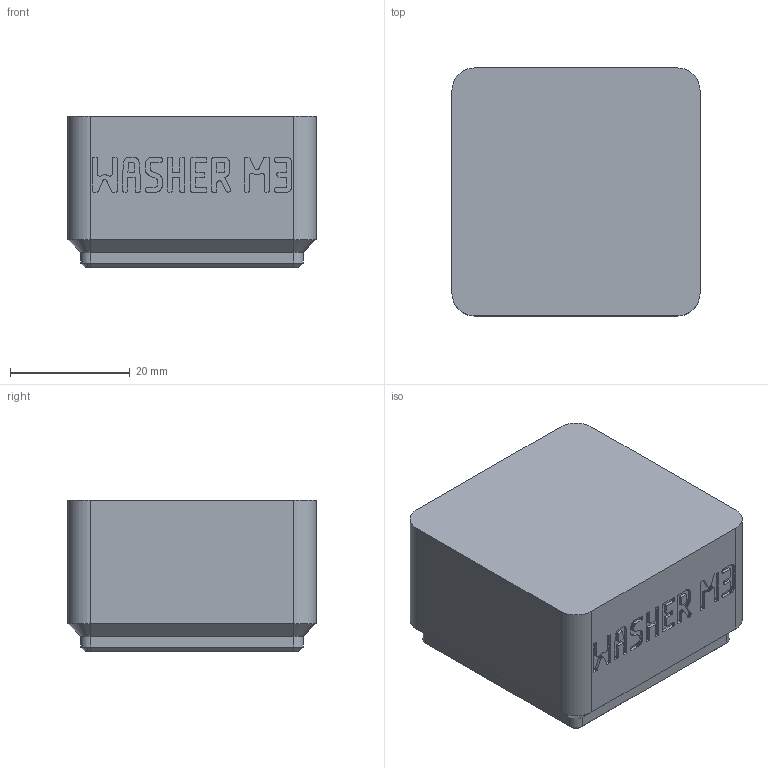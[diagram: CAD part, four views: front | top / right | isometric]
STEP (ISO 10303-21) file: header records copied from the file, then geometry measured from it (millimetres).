
FILE_DESCRIPTION(('Open CASCADE Model'),'2;1');
FILE_NAME('Open CASCADE Shape Model','2026-11-03T16:21:56',('Author'),( 'Open CASCADE'),'Open CASCADE STEP processor 8.0','build123d', 'Unknown');
FILE_SCHEMA(('AUTOMOTIVE_DESIGN { 1 0 10303 214 1 1 1 1 }'));
Products named in the file (1): COMPOUND
Bounding box: 41.5 x 41.5 x 25.4 mm (x, y, z)
Volume: 14641.2 mm3; surface area: 13623.5 mm2
Topology: 1 solids, 2 shells, 1777 faces, 5216 edges, 3464 vertices
Faces by surface type: plane 1741, cylinder 16, cone 12, bspline 8
Entity records: 125514 total; most frequent: CARTESIAN_POINT 21154, DIRECTION 19088, LINE 15444, VECTOR 15444, ORIENTED_EDGE 10432, PCURVE 10432, DEFINITIONAL_REPRESENTATION 10432, EDGE_CURVE 5216
